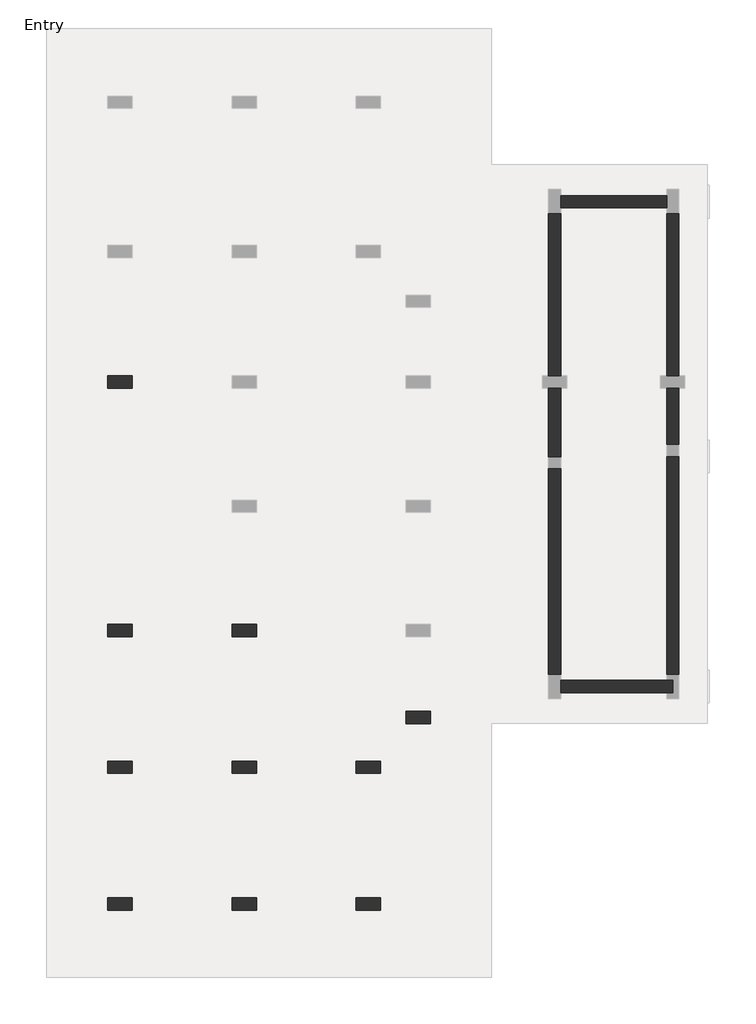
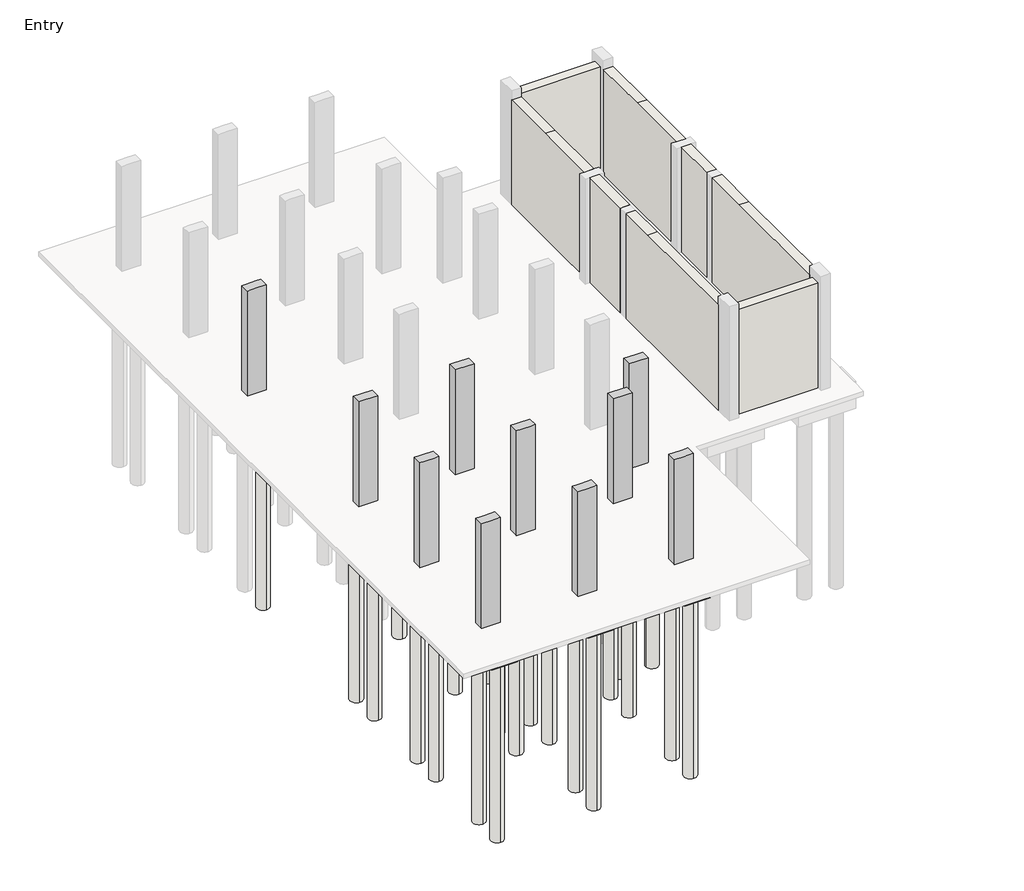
# One storey, part 1 of 3: 34 slabs, 10 columns, 8 walls.
"""IFC4 building model written with IfcOpenShell, lengths in millimetres."""

import ifcopenshell
import ifcopenshell.guid

model = None  # the IFC model being written
_history = None  # IfcOwnerHistory: only IFC2X3 demands one
_inside = {}  # id of a spatial element -> (the spatial element, [elements in it])
_under = {}  # id of a project, library or spatial element -> (it, [spatial elements below it])
_declared = {}  # id of a project -> (the project, [libraries it declares])
_typed = {}  # id of a type object -> (the type object, [elements of that type])
_made_of = {}  # id of a material, layer set ... -> (it, [elements and type objects made of it])


def new_model(schema):
    """Start an empty IFC model of exactly this schema.

    Asked for "IFC4X3", IfcOpenShell would pick the latest addendum, in which some entities
    have other attributes; the version numbers below select the first issue.
    IFC2X3 requires an IfcOwnerHistory on every rooted entity: one is made here for all.
    """
    global model, _history
    if schema == "IFC4X3":
        model = ifcopenshell.file(schema_version=(4, 3, 0, 0))
    else:
        model = ifcopenshell.file(schema=schema)
    _inside.clear()
    _under.clear()
    _declared.clear()
    _typed.clear()
    _made_of.clear()
    _history = None
    if model.schema == "IFC2X3":
        org = make("IfcOrganization", Name="unknown")
        user = make(
            "IfcPersonAndOrganization",
            ThePerson=make("IfcPerson", FamilyName="unknown"),
            TheOrganization=org,
        )
        app = make(
            "IfcApplication",
            ApplicationDeveloper=org,
            Version="unknown",
            ApplicationFullName="unknown",
            ApplicationIdentifier="unknown",
        )
        _history = make(
            "IfcOwnerHistory",
            OwningUser=user,
            OwningApplication=app,
            ChangeAction="ADDED",
            CreationDate=0,
        )
    return model


def make(cls, **values):
    """One entity of the class cls with the attributes given. An attribute that is None is left unset."""
    return model.create_entity(
        cls, **{name: value for name, value in values.items() if value is not None}
    )


def rooted(cls, **values):
    """An entity with a GlobalId (a new one), such as an element, a storey or a relation."""
    return make(cls, GlobalId=ifcopenshell.guid.new(), OwnerHistory=_history, **values)


def si_unit(unit_type, name, prefix=None):
    """IfcSIUnit, for example si_unit("LENGTHUNIT", "METRE", prefix="MILLI")."""
    return make("IfcSIUnit", UnitType=unit_type, Prefix=prefix, Name=name)


def assignment(units):
    """IfcUnitAssignment: the units of a project."""
    return None if units is None else make("IfcUnitAssignment", Units=units)


def point(xyz):
    """IfcCartesianPoint."""
    return None if xyz is None else make("IfcCartesianPoint", Coordinates=xyz)


def direction(xyz):
    """IfcDirection."""
    return None if xyz is None else make("IfcDirection", DirectionRatios=xyz)


def frame(location, z_axis=None, x_axis=None):
    """IfcAxis2Placement3D, a coordinate frame: its origin and axes. An axis left out is left unset."""
    return make(
        "IfcAxis2Placement3D",
        Location=point(location),
        Axis=direction(z_axis),
        RefDirection=direction(x_axis),
    )


def frame_2d(location, x_axis=None):
    """IfcAxis2Placement2D, a coordinate frame in the plane: its origin and x axis."""
    return make(
        "IfcAxis2Placement2D", Location=point(location), RefDirection=direction(x_axis)
    )


def origin():
    """The frame at (0, 0, 0) with its axes left unset."""
    return frame((0.0, 0.0, 0.0))


def origin_with_axes():
    """The frame at (0, 0, 0) with the z axis (0, 0, 1) and the x axis (1, 0, 0) written out."""
    return frame((0.0, 0.0, 0.0), z_axis=(0.0, 0.0, 1.0), x_axis=(1.0, 0.0, 0.0))


def place(relative_to, where):
    """IfcLocalPlacement: puts the frame where relative to a parent placement (None: the world)."""
    return make(
        "IfcLocalPlacement", PlacementRelTo=relative_to, RelativePlacement=where
    )


def context(
    kind, dimensions, precision=None, world=None, true_north=None, identifier=None
):
    """IfcGeometricRepresentationContext, for example the 3D "Model" context."""
    return make(
        "IfcGeometricRepresentationContext",
        ContextIdentifier=identifier,
        ContextType=kind,
        CoordinateSpaceDimension=dimensions,
        Precision=precision,
        WorldCoordinateSystem=world,
        TrueNorth=true_north,
    )


def project(units=None, contexts=None):
    """IfcProject with its units and contexts."""
    return rooted(
        "IfcProject",
        Name="project",
        RepresentationContexts=contexts,
        UnitsInContext=assignment(units),
    )


def spatial(cls, under=None, at=None, **own):
    """A site, building, storey or space (cls), placed at a placement, below another one or the project."""
    s = rooted(cls, ObjectPlacement=at, **own)
    if under is not None:
        _under.setdefault(under.id(), (under, []))[1].append(s)
    return s


def polyline(points):
    """IfcPolyline through the points."""
    return make("IfcPolyline", Points=[point(p) for p in points])


def circle_curve(where, radius):
    """IfcCircle in the frame where."""
    return make("IfcCircle", Position=where, Radius=radius)


def trimmed(basis, trim1, trim2, sense, master):
    """IfcTrimmedCurve: the piece of a basis curve between two trims."""
    return make(
        "IfcTrimmedCurve",
        BasisCurve=basis,
        Trim1=trim1,
        Trim2=trim2,
        SenseAgreement=sense,
        MasterRepresentation=master,
    )


def segment(curve, same_sense, transition):
    """IfcCompositeCurveSegment."""
    return make(
        "IfcCompositeCurveSegment",
        Transition=transition,
        SameSense=same_sense,
        ParentCurve=curve,
    )


def composite_curve(segments, self_intersect=None):
    """IfcCompositeCurve: segments joined end to end."""
    return make("IfcCompositeCurve", Segments=segments, SelfIntersect=self_intersect)


def outline(outer, holes=None, kind="AREA"):
    """IfcArbitraryClosedProfileDef: a profile drawn as a closed curve; with holes, ...WithVoids."""
    if holes is None:
        return make("IfcArbitraryClosedProfileDef", ProfileType=kind, OuterCurve=outer)
    return make(
        "IfcArbitraryProfileDefWithVoids",
        ProfileType=kind,
        OuterCurve=outer,
        InnerCurves=holes,
    )


def extrude(swept, where, along, depth):
    """IfcExtrudedAreaSolid: the profile swept, set in the frame where, extruded along a direction by depth."""
    return make(
        "IfcExtrudedAreaSolid",
        SweptArea=swept,
        Position=where,
        ExtrudedDirection=direction(along),
        Depth=depth,
    )


def faces_of(points, faces, orient=None, outer=None):
    """IfcFace entities. A face is a list of loops; a loop is a list of indices into points, from 0.

    orient and outer hold one flag for each loop. By default every Orientation is true, the
    first loop of a face is its IfcFaceOuterBound and the others are IfcFaceBound.
    """
    made = []
    for i, loops in enumerate(faces):
        bounds = []
        for j, loop in enumerate(loops):
            is_outer = j == 0 if outer is None else outer[i][j]
            bounds.append(
                make(
                    "IfcFaceOuterBound" if is_outer else "IfcFaceBound",
                    Bound=make("IfcPolyLoop", Polygon=[points[k] for k in loop]),
                    Orientation=True if orient is None else orient[i][j],
                )
            )
        made.append(make("IfcFace", Bounds=bounds))
    return made


def faceted_brep(points, faces, orient=None, outer=None, voids=None):
    """IfcFacetedBrep: a solid bounded by flat faces; with voids (closed shells), ...WithVoids."""
    shared = [point(p) for p in points]
    hull = make("IfcClosedShell", CfsFaces=faces_of(shared, faces, orient, outer))
    if voids is None:
        return make("IfcFacetedBrep", Outer=hull)
    return make(
        "IfcFacetedBrepWithVoids",
        Outer=hull,
        Voids=[
            make(cls, CfsFaces=faces_of(shared, fs, o, b)) for cls, fs, o, b in voids
        ],
    )


def shape(context_of_items, identifier, shape_type, items):
    """IfcShapeRepresentation: the items that make up one representation, for example the "Body"."""
    return make(
        "IfcShapeRepresentation",
        ContextOfItems=context_of_items,
        RepresentationIdentifier=identifier,
        RepresentationType=shape_type,
        Items=items,
    )


def made_of(thing, what):
    """Note that an element or type object is made of a material, layer set ...; save() writes the relation."""
    if what is not None:
        _made_of.setdefault(what.id(), (what, []))[1].append(thing)
    return thing


def element(
    cls,
    number,
    at=None,
    inside=None,
    cuts=None,
    type_object=None,
    material=None,
    context=None,
    identifier="Body",
    shape_type=None,
    held_by="IfcProductDefinitionShape",
    body=None,
    shapes=None,
    **own,
):
    """One element of the class cls, such as IfcWall. Its Tag is "e" and its number.

    at: its placement. inside: the storey or other place that contains it. cuts: it is an
    opening in that element (IfcRelVoidsElement). A single representation is given by context,
    identifier, shape_type and body (its items); several are given by shapes. held_by: the class
    of the entity that holds the representations. save() writes the other relations.
    """
    e = rooted(cls, Tag="e%d" % number, ObjectPlacement=at, **own)
    if body is not None:
        shapes = [shape(context, identifier, shape_type, body)]
    if shapes is not None:
        e.Representation = make(held_by, Representations=shapes)
    if inside is not None:
        _inside.setdefault(inside.id(), (inside, []))[1].append(e)
    if cuts is not None:
        rooted(
            "IfcRelVoidsElement", RelatingBuildingElement=cuts, RelatedOpeningElement=e
        )
    if type_object is not None:
        _typed.setdefault(type_object.id(), (type_object, []))[1].append(e)
    return made_of(e, material)


def aggregate(whole, parts):
    """IfcRelAggregates: a whole, such as a stair, and the parts it consists of."""
    return rooted("IfcRelAggregates", RelatingObject=whole, RelatedObjects=parts)


def save(model, path):
    """Write the relations noted so far, then the file.

    IfcRelAggregates (storeys below a building ...), IfcRelContainedInSpatialStructure (elements
    in a storey), IfcRelDefinesByType, IfcRelAssociatesMaterial and IfcRelDeclares: one each for
    every whole, place, type object, material and project.
    """
    for whole, parts in _under.values():
        aggregate(whole, parts)
    for where, things in _inside.values():
        rooted(
            "IfcRelContainedInSpatialStructure",
            RelatedElements=things,
            RelatingStructure=where,
        )
    for kind, things in _typed.values():
        rooted("IfcRelDefinesByType", RelatedObjects=things, RelatingType=kind)
    for what, things in _made_of.values():
        rooted("IfcRelAssociatesMaterial", RelatedObjects=things, RelatingMaterial=what)
    for by, libraries in _declared.values():
        rooted("IfcRelDeclares", RelatingContext=by, RelatedDefinitions=libraries)
    model.write(path)


model = new_model("IFC4")

# Units and contexts
model_context = context("Model", 3, world=origin())
ifc_project = project(units=[si_unit("LENGTHUNIT", "METRE", prefix="MILLI")], contexts=[model_context])

# Site, building, storey
site = spatial("IfcSite", under=ifc_project)
building = spatial("IfcBuilding", under=site)
storey = spatial("IfcBuildingStorey", under=building, Name="Entry", Elevation=0.0)

# Columns
placement = place(None, origin())
element("IfcColumn", 1, ObjectType="M_Concrete-Rectangular-Column : 300 x 600mm", at=placement, inside=storey, context=model_context, shape_type="Brep", body=[
    faceted_brep([(-13131.3472303, 8019.016665, 0.0), (-12531.3472303, 8019.016665, 0.0), (-12531.3472303, 7719.016665, 0.0), (-13131.3472303, 7719.016665, 0.0), (-13131.3472303, 8019.016665, 3505.2), (-12981.3472303, 8019.016665, 3505.2), (-12681.3472303, 8019.016665, 3505.2), (-12531.3472303, 8019.016665, 3505.2), (-12531.3472303, 8019.016665, 2910.0), (-12531.3472303, 7719.016665, 3505.2), (-12531.3472303, 7719.016665, 2910.0), (-12831.3472303, 7719.016665, 3505.2), (-13131.3472303, 7719.016665, 3505.2)], [[[0, 1, 2, 3]], [[4, 5, 6, 7, 8, 1, 0]], [[7, 9, 10, 2, 1, 8]], [[9, 11, 12, 3, 2, 10]], [[12, 4, 0, 3]], [[4, 12, 11, 9, 7, 6, 5]]]),
])
element("IfcColumn", 2, ObjectType="M_Concrete-Rectangular-Column : 300 x 600mm", at=placement, inside=storey, context=model_context, shape_type="Brep", body=[
    faceted_brep([(-13131.3472303, 1923.016665, 0.0), (-12531.3472303, 1923.016665, 0.0), (-12531.3472303, 1623.016665, 0.0), (-13131.3472303, 1623.016665, 0.0), (-13131.3472303, 1923.016665, 3505.2), (-12831.3472303, 1923.016665, 3505.2), (-12531.3472303, 1923.016665, 3505.2), (-12531.3472303, 1923.016665, 2910.0), (-12531.3472303, 1623.016665, 3505.2), (-12531.3472303, 1623.016665, 2910.0), (-12681.3472303, 1623.016665, 3505.2), (-12981.3472303, 1623.016665, 3505.2), (-13131.3472303, 1623.016665, 3505.2)], [[[0, 1, 2, 3]], [[4, 5, 6, 7, 1, 0]], [[6, 8, 9, 2, 1, 7]], [[8, 10, 11, 12, 3, 2, 9]], [[12, 4, 0, 3]], [[4, 12, 11, 10, 8, 6, 5]]]),
])
element("IfcColumn", 3, ObjectType="M_Concrete-Rectangular-Column : 300 x 600mm", at=placement, inside=storey, context=model_context, shape_type="Brep", body=[
    faceted_brep([(-10083.3472303, 1923.016665, 0.0), (-9483.3472303, 1923.016665, 0.0), (-9483.3472303, 1623.016665, 0.0), (-10083.3472303, 1623.016665, 0.0), (-10083.3472303, 1923.016665, 3505.2), (-9933.3472303, 1923.016665, 3505.2), (-9783.3472303, 1923.016665, 3505.2), (-9483.3472303, 1923.016665, 3505.2), (-9483.3472303, 1923.016665, 2910.0), (-10083.3472303, 1923.016665, 2910.0), (-9483.3472303, 1623.016665, 3505.2), (-9483.3472303, 1623.016665, 2910.0), (-9783.3472303, 1623.016665, 3505.2), (-9933.3472303, 1623.016665, 3505.2), (-10083.3472303, 1623.016665, 3505.2), (-10083.3472303, 1623.016665, 2910.0)], [[[0, 1, 2, 3]], [[4, 5, 6, 7, 8, 1, 0, 9]], [[7, 10, 11, 2, 1, 8]], [[10, 12, 13, 14, 15, 3, 2, 11]], [[14, 4, 9, 0, 3, 15]], [[4, 14, 13, 12, 10, 7, 6, 5]]]),
])
element("IfcColumn", 4, ObjectType="M_Concrete-Rectangular-Column : 300 x 600mm", at=placement, inside=storey, context=model_context, shape_type="Brep", body=[
    faceted_brep([(-5816.3472303, -210.983335, 0.0), (-5216.3472303, -210.983335, 0.0), (-5216.3472303, -510.983335, 0.0), (-5816.3472303, -510.983335, 0.0), (-5816.3472303, -210.983335, 3505.2), (-5666.3472303, -210.983335, 3505.2), (-5366.3472303, -210.983335, 3505.2), (-5216.3472303, -210.983335, 3505.2), (-5816.3472303, -210.983335, 2910.0), (-5216.3472303, -510.983335, 3505.2), (-5516.3472303, -510.983335, 3505.2), (-5816.3472303, -510.983335, 3505.2), (-5816.3472303, -510.983335, 2910.0)], [[[0, 1, 2, 3]], [[4, 5, 6, 7, 1, 0, 8]], [[7, 9, 2, 1]], [[9, 10, 11, 12, 3, 2]], [[11, 4, 8, 0, 3, 12]], [[4, 11, 10, 9, 7, 6, 5]]]),
])
element("IfcColumn", 5, ObjectType="M_Concrete-Rectangular-Column : 300 x 600mm", at=placement, inside=storey, context=model_context, shape_type="Brep", body=[
    faceted_brep([(-13131.3472303, -1429.983335, 0.0), (-12531.3472303, -1429.983335, 0.0), (-12531.3472303, -1729.983335, 0.0), (-13131.3472303, -1729.983335, 0.0), (-13131.3472303, -1429.983335, 3505.2), (-12981.3472303, -1429.983335, 3505.2), (-12831.3472303, -1429.983335, 3505.2), (-12531.3472303, -1429.983335, 3505.2), (-12531.3472303, -1429.983335, 2910.0), (-12531.3472303, -1729.983335, 3505.2), (-12531.3472303, -1729.983335, 2910.0), (-12681.3472303, -1729.983335, 3505.2), (-12981.3472303, -1729.983335, 3505.2), (-13131.3472303, -1729.983335, 3505.2)], [[[0, 1, 2, 3]], [[4, 5, 6, 7, 8, 1, 0]], [[7, 9, 10, 2, 1, 8]], [[9, 11, 12, 13, 3, 2, 10]], [[13, 4, 0, 3]], [[4, 13, 12, 11, 9, 7, 6, 5]]]),
])
element("IfcColumn", 6, ObjectType="M_Concrete-Rectangular-Column : 300 x 600mm", at=placement, inside=storey, context=model_context, shape_type="Brep", body=[
    faceted_brep([(-10083.3472303, -1429.983335, 0.0), (-9483.3472303, -1429.983335, 0.0), (-9483.3472303, -1729.983335, 0.0), (-10083.3472303, -1729.983335, 0.0), (-10083.3472303, -1429.983335, 3505.2), (-9933.3472303, -1429.983335, 3505.2), (-9783.3472303, -1429.983335, 3505.2), (-9483.3472303, -1429.983335, 3505.2), (-9483.3472303, -1429.983335, 2910.0), (-10083.3472303, -1429.983335, 2910.0), (-9483.3472303, -1729.983335, 3505.2), (-9483.3472303, -1729.983335, 2910.0), (-9633.3472303, -1729.983335, 3505.2), (-9933.3472303, -1729.983335, 3505.2), (-10083.3472303, -1729.983335, 3505.2), (-10083.3472303, -1729.983335, 2910.0)], [[[0, 1, 2, 3]], [[4, 5, 6, 7, 8, 1, 0, 9]], [[7, 10, 11, 2, 1, 8]], [[10, 12, 13, 14, 15, 3, 2, 11]], [[14, 4, 9, 0, 3, 15]], [[4, 14, 13, 12, 10, 7, 6, 5]]]),
])
element("IfcColumn", 7, ObjectType="M_Concrete-Rectangular-Column : 300 x 600mm", at=placement, inside=storey, context=model_context, shape_type="Brep", body=[
    faceted_brep([(-7035.3472303, -1429.983335, 0.0), (-6435.3472303, -1429.983335, 0.0), (-6435.3472303, -1729.983335, 0.0), (-7035.3472303, -1729.983335, 0.0), (-7035.3472303, -1429.983335, 3505.2), (-6885.3472303, -1429.983335, 3505.2), (-6585.3472303, -1429.983335, 3505.2), (-6435.3472303, -1429.983335, 3505.2), (-7035.3472303, -1429.983335, 2910.0), (-6435.3472303, -1729.983335, 3505.2), (-6585.3472303, -1729.983335, 3505.2), (-6735.3472303, -1729.983335, 3505.2), (-7035.3472303, -1729.983335, 3505.2), (-7035.3472303, -1729.983335, 2910.0)], [[[0, 1, 2, 3]], [[4, 5, 6, 7, 1, 0, 8]], [[7, 9, 2, 1]], [[9, 10, 11, 12, 13, 3, 2]], [[12, 4, 8, 0, 3, 13]], [[4, 12, 11, 10, 9, 7, 6, 5]]]),
])
element("IfcColumn", 8, ObjectType="M_Concrete-Rectangular-Column : 300 x 600mm", at=placement, inside=storey, context=model_context, shape_type="Brep", body=[
    faceted_brep([(-13131.3472303, -4782.983335, 0.0), (-12531.3472303, -4782.983335, 0.0), (-12531.3472303, -5082.983335, 0.0), (-13131.3472303, -5082.983335, 0.0), (-13131.3472303, -4782.983335, 3505.2), (-12981.3472303, -4782.983335, 3505.2), (-12831.3472303, -4782.983335, 3505.2), (-12531.3472303, -4782.983335, 3505.2), (-12531.3472303, -4782.983335, 2910.0), (-12531.3472303, -5082.983335, 3505.2), (-12531.3472303, -5082.983335, 2910.0), (-12831.3472303, -5082.983335, 3505.2), (-13131.3472303, -5082.983335, 3505.2)], [[[0, 1, 2, 3]], [[4, 5, 6, 7, 8, 1, 0]], [[7, 9, 10, 2, 1, 8]], [[9, 11, 12, 3, 2, 10]], [[12, 4, 0, 3]], [[4, 12, 11, 9, 7, 6, 5]]]),
])
element("IfcColumn", 9, ObjectType="M_Concrete-Rectangular-Column : 300 x 600mm", at=placement, inside=storey, context=model_context, shape_type="Brep", body=[
    faceted_brep([(-10083.3472303, -4782.983335, 0.0), (-9483.3472303, -4782.983335, 0.0), (-9483.3472303, -5082.983335, 0.0), (-10083.3472303, -5082.983335, 0.0), (-10083.3472303, -4782.983335, 3505.2), (-9933.3472303, -4782.983335, 3505.2), (-9783.3472303, -4782.983335, 3505.2), (-9483.3472303, -4782.983335, 3505.2), (-9483.3472303, -4782.983335, 2910.0), (-10083.3472303, -4782.983335, 2910.0), (-9483.3472303, -5082.983335, 3505.2), (-9483.3472303, -5082.983335, 2910.0), (-9783.3472303, -5082.983335, 3505.2), (-10083.3472303, -5082.983335, 3505.2), (-10083.3472303, -5082.983335, 2910.0)], [[[0, 1, 2, 3]], [[4, 5, 6, 7, 8, 1, 0, 9]], [[7, 10, 11, 2, 1, 8]], [[10, 12, 13, 14, 3, 2, 11]], [[13, 4, 9, 0, 3, 14]], [[4, 13, 12, 10, 7, 6, 5]]]),
])
element("IfcColumn", 10, ObjectType="M_Concrete-Rectangular-Column : 300 x 600mm", at=placement, inside=storey, context=model_context, shape_type="Brep", body=[
    faceted_brep([(-7035.3472303, -4782.983335, 0.0), (-6435.3472303, -4782.983335, 0.0), (-6435.3472303, -5082.983335, 0.0), (-7035.3472303, -5082.983335, 0.0), (-7035.3472303, -4782.983335, 3505.2), (-6885.3472303, -4782.983335, 3505.2), (-6585.3472303, -4782.983335, 3505.2), (-6435.3472303, -4782.983335, 3505.2), (-7035.3472303, -4782.983335, 2910.0), (-6435.3472303, -5082.983335, 3505.2), (-6735.3472303, -5082.983335, 3505.2), (-7035.3472303, -5082.983335, 3505.2), (-7035.3472303, -5082.983335, 2910.0)], [[[0, 1, 2, 3]], [[4, 5, 6, 7, 1, 0, 8]], [[7, 9, 2, 1]], [[9, 10, 11, 12, 3, 2]], [[11, 4, 8, 0, 3, 12]], [[4, 11, 10, 9, 7, 6, 5]]]),
])

# Slabs
element("IfcSlab", 11, ObjectType="M_Pile Cap-2 Pile : 800 x 1500 x 900", at=placement, inside=storey, context=model_context, shape_type="Brep", body=[
    faceted_brep([(-7135.3472303, -679.983335, -900.0), (-6416.3472303, -679.983335, -900.0), (-6335.3472303, -679.983335, -900.0), (-6335.3472303, -760.983335, -900.0), (-6335.3472303, -2479.983335, -900.0), (-7135.3472303, -2479.983335, -900.0), (-7135.3472303, -2479.983335, -150.0), (-7135.3472303, -679.983335, -150.0), (-6335.3472303, -2479.983335, -150.0), (-6335.3472303, -679.983335, -150.0), (-6335.3472303, -760.983335, -150.0), (-6416.3472303, -679.983335, -150.0)], [[[0, 1, 2, 3, 4, 5]], [[0, 5, 6, 7]], [[5, 4, 8, 6]], [[4, 3, 2, 9, 10, 8]], [[2, 1, 0, 7, 11, 9]], [[7, 6, 8, 10, 9, 11]]]),
])
element("IfcSlab", 12, ObjectType="M_Pile Cap-2 Pile : 800 x 1500 x 900", at=placement, inside=storey, context=model_context, shape_type="SweptSolid", body=[
    extrude(outline(polyline([(-7135.3472303, -4032.983335), (-6335.3472303, -4032.983335), (-6335.3472303, -5832.983335), (-7135.3472303, -5832.983335), (-7135.3472303, -4032.983335)])), frame((0.0, 0.0, -900.0), z_axis=(0.0, 0.0, 1.0), x_axis=(1.0, 0.0, 0.0)), (0.0, 0.0, 1.0), 750.0),
])
element("IfcSlab", 13, ObjectType="M_Pile Cap-2 Pile : 800 x 1500 x 900", at=placement, inside=storey, context=model_context, shape_type="SweptSolid", body=[
    extrude(outline(polyline([(-10183.3472303, -4032.983335), (-9383.3472303, -4032.983335), (-9383.3472303, -5832.983335), (-10183.3472303, -5832.983335), (-10183.3472303, -4032.983335)])), frame((0.0, 0.0, -900.0), z_axis=(0.0, 0.0, 1.0), x_axis=(1.0, 0.0, 0.0)), (0.0, 0.0, 1.0), 750.0),
])
element("IfcSlab", 14, ObjectType="M_Pile Cap-2 Pile : 800 x 1500 x 900", at=placement, inside=storey, context=model_context, shape_type="SweptSolid", body=[
    extrude(outline(polyline([(-13231.3472303, -4032.983335), (-12431.3472303, -4032.983335), (-12431.3472303, -5832.983335), (-13231.3472303, -5832.983335), (-13231.3472303, -4032.983335)])), frame((0.0, 0.0, -900.0), z_axis=(0.0, 0.0, 1.0), x_axis=(1.0, 0.0, 0.0)), (0.0, 0.0, 1.0), 750.0),
])
element("IfcSlab", 15, ObjectType="M_Pile Cap-2 Pile : 800 x 1500 x 900", at=placement, inside=storey, context=model_context, shape_type="SweptSolid", body=[
    extrude(outline(polyline([(-13231.3472303, -679.983335), (-12431.3472303, -679.983335), (-12431.3472303, -2479.983335), (-13231.3472303, -2479.983335), (-13231.3472303, -679.983335)])), frame((0.0, 0.0, -900.0), z_axis=(0.0, 0.0, 1.0), x_axis=(1.0, 0.0, 0.0)), (0.0, 0.0, 1.0), 750.0),
])
element("IfcSlab", 16, ObjectType="M_Pile Cap-2 Pile : 800 x 1500 x 900", at=placement, inside=storey, context=model_context, shape_type="SweptSolid", body=[
    extrude(outline(polyline([(-13231.3472303, 2673.016665), (-12431.3472303, 2673.016665), (-12431.3472303, 873.016665), (-13231.3472303, 873.016665), (-13231.3472303, 2673.016665)])), frame((0.0, 0.0, -900.0), z_axis=(0.0, 0.0, 1.0), x_axis=(1.0, 0.0, 0.0)), (0.0, 0.0, 1.0), 750.0),
])
element("IfcSlab", 17, ObjectType="M_Pile Cap-2 Pile : 800 x 1500 x 900", at=placement, inside=storey, context=model_context, shape_type="SweptSolid", body=[
    extrude(outline(polyline([(-13231.3472303, 8769.016665), (-12431.3472303, 8769.016665), (-12431.3472303, 6969.016665), (-13231.3472303, 6969.016665), (-13231.3472303, 8769.016665)])), frame((0.0, 0.0, -900.0), z_axis=(0.0, 0.0, 1.0), x_axis=(1.0, 0.0, 0.0)), (0.0, 0.0, 1.0), 750.0),
])
element("IfcSlab", 18, ObjectType="M_Pile Cap-2 Pile : 800 x 1500 x 900", at=placement, inside=storey, context=model_context, shape_type="SweptSolid", body=[
    extrude(outline(polyline([(-4616.3472303, 39.016665), (-4616.3472303, -760.983335), (-6335.3472303, -760.983335), (-6335.3472303, -679.983335), (-6416.3472303, -679.983335), (-6416.3472303, 39.016665), (-4616.3472303, 39.016665)])), frame((0.0, 0.0, -900.0), z_axis=(0.0, 0.0, 1.0), x_axis=(1.0, 0.0, 0.0)), (0.0, 0.0, 1.0), 750.0),
])
element("IfcSlab", 19, ObjectType="M_Pile Cap-4 Pile : 1800 x 1800 x 900", at=placement, inside=storey, context=model_context, shape_type="SweptSolid", body=[
    extrude(outline(polyline([(-10683.3472303, 2673.016665), (-8883.3472303, 2673.016665), (-8883.3472303, 873.016665), (-10683.3472303, 873.016665), (-10683.3472303, 2673.016665)])), frame((0.0, 0.0, -900.0), z_axis=(0.0, 0.0, 1.0), x_axis=(1.0, 0.0, 0.0)), (0.0, 0.0, 1.0), 750.0),
])
element("IfcSlab", 20, ObjectType="M_Pile Cap-4 Pile : 1800 x 1800 x 900", at=placement, inside=storey, context=model_context, shape_type="SweptSolid", body=[
    extrude(outline(polyline([(-10683.3472303, -679.983335), (-8883.3472303, -679.983335), (-8883.3472303, -2479.983335), (-10683.3472303, -2479.983335), (-10683.3472303, -679.983335)])), frame((0.0, 0.0, -900.0), z_axis=(0.0, 0.0, 1.0), x_axis=(1.0, 0.0, 0.0)), (0.0, 0.0, 1.0), 750.0),
])
element("IfcSlab", 21, ObjectType="M_Pile-Steel Pipe : 400mm Diameter", at=placement, inside=storey, context=model_context, shape_type="SweptSolid", body=[
    extrude(outline(composite_curve([segment(trimmed(circle_curve(frame_2d((-10303.3472303, 4301.016665)), 200.0), [point((-10303.3472303, 4101.016665))], [point((-10303.3472303, 4501.016665))], False, "CARTESIAN"), True, "CONTINUOUS"), segment(trimmed(circle_curve(frame_2d((-10303.3472303, 4301.016665)), 200.0), [point((-10303.3472303, 4501.016665))], [point((-10303.3472303, 4101.016665))], False, "CARTESIAN"), True, "CONTINUOUS")], self_intersect=False)), frame((0.0, 0.0, -6900.0), z_axis=(0.0, 0.0, 1.0), x_axis=(1.0, 0.0, 0.0)), (0.0, 0.0, 1.0), 6000.0),
])
element("IfcSlab", 22, ObjectType="M_Pile-Steel Pipe : 400mm Diameter", at=placement, inside=storey, context=model_context, shape_type="SweptSolid", body=[
    extrude(outline(composite_curve([segment(trimmed(circle_curve(frame_2d((-9263.3472303, 1253.016665)), 200.0), [point((-9263.3472303, 1053.016665))], [point((-9263.3472303, 1453.016665))], False, "CARTESIAN"), True, "CONTINUOUS"), segment(trimmed(circle_curve(frame_2d((-9263.3472303, 1253.016665)), 200.0), [point((-9263.3472303, 1453.016665))], [point((-9263.3472303, 1053.016665))], False, "CARTESIAN"), True, "CONTINUOUS")], self_intersect=False)), frame((0.0, 0.0, -6900.0), z_axis=(0.0, 0.0, 1.0), x_axis=(1.0, 0.0, 0.0)), (0.0, 0.0, 1.0), 6000.0),
])
element("IfcSlab", 23, ObjectType="M_Pile-Steel Pipe : 400mm Diameter", at=placement, inside=storey, context=model_context, shape_type="SweptSolid", body=[
    extrude(outline(composite_curve([segment(trimmed(circle_curve(frame_2d((-9263.3472303, 2293.016665)), 200.0), [point((-9263.3472303, 2093.016665))], [point((-9263.3472303, 2493.016665))], False, "CARTESIAN"), True, "CONTINUOUS"), segment(trimmed(circle_curve(frame_2d((-9263.3472303, 2293.016665)), 200.0), [point((-9263.3472303, 2493.016665))], [point((-9263.3472303, 2093.016665))], False, "CARTESIAN"), True, "CONTINUOUS")], self_intersect=False)), frame((0.0, 0.0, -6900.0), z_axis=(0.0, 0.0, 1.0), x_axis=(1.0, 0.0, 0.0)), (0.0, 0.0, 1.0), 6000.0),
])
element("IfcSlab", 24, ObjectType="M_Pile-Steel Pipe : 400mm Diameter", at=placement, inside=storey, context=model_context, shape_type="SweptSolid", body=[
    extrude(outline(composite_curve([segment(trimmed(circle_curve(frame_2d((-10303.3472303, 2293.016665)), 200.0), [point((-10303.3472303, 2093.016665))], [point((-10303.3472303, 2493.016665))], False, "CARTESIAN"), True, "CONTINUOUS"), segment(trimmed(circle_curve(frame_2d((-10303.3472303, 2293.016665)), 200.0), [point((-10303.3472303, 2493.016665))], [point((-10303.3472303, 2093.016665))], False, "CARTESIAN"), True, "CONTINUOUS")], self_intersect=False)), frame((0.0, 0.0, -6900.0), z_axis=(0.0, 0.0, 1.0), x_axis=(1.0, 0.0, 0.0)), (0.0, 0.0, 1.0), 6000.0),
])
element("IfcSlab", 25, ObjectType="M_Pile-Steel Pipe : 400mm Diameter", at=placement, inside=storey, context=model_context, shape_type="SweptSolid", body=[
    extrude(outline(composite_curve([segment(trimmed(circle_curve(frame_2d((-10303.3472303, 1253.016665)), 200.0), [point((-10303.3472303, 1053.016665))], [point((-10303.3472303, 1453.016665))], False, "CARTESIAN"), True, "CONTINUOUS"), segment(trimmed(circle_curve(frame_2d((-10303.3472303, 1253.016665)), 200.0), [point((-10303.3472303, 1453.016665))], [point((-10303.3472303, 1053.016665))], False, "CARTESIAN"), True, "CONTINUOUS")], self_intersect=False)), frame((0.0, 0.0, -6900.0), z_axis=(0.0, 0.0, 1.0), x_axis=(1.0, 0.0, 0.0)), (0.0, 0.0, 1.0), 6000.0),
])
element("IfcSlab", 26, ObjectType="M_Pile-Steel Pipe : 400mm Diameter", at=placement, inside=storey, context=model_context, shape_type="SweptSolid", body=[
    extrude(outline(composite_curve([segment(trimmed(circle_curve(frame_2d((-9263.3472303, -2099.983335)), 200.0), [point((-9263.3472303, -2299.983335))], [point((-9263.3472303, -1899.983335))], False, "CARTESIAN"), True, "CONTINUOUS"), segment(trimmed(circle_curve(frame_2d((-9263.3472303, -2099.983335)), 200.0), [point((-9263.3472303, -1899.983335))], [point((-9263.3472303, -2299.983335))], False, "CARTESIAN"), True, "CONTINUOUS")], self_intersect=False)), frame((0.0, 0.0, -6900.0), z_axis=(0.0, 0.0, 1.0), x_axis=(1.0, 0.0, 0.0)), (0.0, 0.0, 1.0), 6000.0),
])
element("IfcSlab", 27, ObjectType="M_Pile-Steel Pipe : 400mm Diameter", at=placement, inside=storey, context=model_context, shape_type="SweptSolid", body=[
    extrude(outline(composite_curve([segment(trimmed(circle_curve(frame_2d((-9263.3472303, -1059.983335)), 200.0), [point((-9263.3472303, -1259.983335))], [point((-9263.3472303, -859.983335))], False, "CARTESIAN"), True, "CONTINUOUS"), segment(trimmed(circle_curve(frame_2d((-9263.3472303, -1059.983335)), 200.0), [point((-9263.3472303, -859.983335))], [point((-9263.3472303, -1259.983335))], False, "CARTESIAN"), True, "CONTINUOUS")], self_intersect=False)), frame((0.0, 0.0, -6900.0), z_axis=(0.0, 0.0, 1.0), x_axis=(1.0, 0.0, 0.0)), (0.0, 0.0, 1.0), 6000.0),
])
element("IfcSlab", 28, ObjectType="M_Pile-Steel Pipe : 400mm Diameter", at=placement, inside=storey, context=model_context, shape_type="SweptSolid", body=[
    extrude(outline(composite_curve([segment(trimmed(circle_curve(frame_2d((-10303.3472303, -1059.983335)), 200.0), [point((-10303.3472303, -1259.983335))], [point((-10303.3472303, -859.983335))], False, "CARTESIAN"), True, "CONTINUOUS"), segment(trimmed(circle_curve(frame_2d((-10303.3472303, -1059.983335)), 200.0), [point((-10303.3472303, -859.983335))], [point((-10303.3472303, -1259.983335))], False, "CARTESIAN"), True, "CONTINUOUS")], self_intersect=False)), frame((0.0, 0.0, -6900.0), z_axis=(0.0, 0.0, 1.0), x_axis=(1.0, 0.0, 0.0)), (0.0, 0.0, 1.0), 6000.0),
])
element("IfcSlab", 29, ObjectType="M_Pile-Steel Pipe : 400mm Diameter", at=placement, inside=storey, context=model_context, shape_type="SweptSolid", body=[
    extrude(outline(composite_curve([segment(trimmed(circle_curve(frame_2d((-10303.3472303, -2099.983335)), 200.0), [point((-10303.3472303, -2299.983335))], [point((-10303.3472303, -1899.983335))], False, "CARTESIAN"), True, "CONTINUOUS"), segment(trimmed(circle_curve(frame_2d((-10303.3472303, -2099.983335)), 200.0), [point((-10303.3472303, -1899.983335))], [point((-10303.3472303, -2299.983335))], False, "CARTESIAN"), True, "CONTINUOUS")], self_intersect=False)), frame((0.0, 0.0, -6900.0), z_axis=(0.0, 0.0, 1.0), x_axis=(1.0, 0.0, 0.0)), (0.0, 0.0, 1.0), 6000.0),
])
element("IfcSlab", 30, ObjectType="M_Pile-Steel Pipe : 400mm Diameter", at=placement, inside=storey, context=model_context, shape_type="SweptSolid", body=[
    extrude(outline(composite_curve([segment(trimmed(circle_curve(frame_2d((-6735.3472303, -2079.983335)), 200.0), [point((-6735.3472303, -2279.983335))], [point((-6735.3472303, -1879.983335))], False, "CARTESIAN"), True, "CONTINUOUS"), segment(trimmed(circle_curve(frame_2d((-6735.3472303, -2079.983335)), 200.0), [point((-6735.3472303, -1879.983335))], [point((-6735.3472303, -2279.983335))], False, "CARTESIAN"), True, "CONTINUOUS")], self_intersect=False)), frame((0.0, 0.0, -6900.0), z_axis=(0.0, 0.0, 1.0), x_axis=(1.0, 0.0, 0.0)), (0.0, 0.0, 1.0), 6000.0),
])
element("IfcSlab", 31, ObjectType="M_Pile-Steel Pipe : 400mm Diameter", at=placement, inside=storey, context=model_context, shape_type="SweptSolid", body=[
    extrude(outline(composite_curve([segment(trimmed(circle_curve(frame_2d((-6735.3472303, -1079.983335)), 200.0), [point((-6735.3472303, -1279.983335))], [point((-6735.3472303, -879.983335))], False, "CARTESIAN"), True, "CONTINUOUS"), segment(trimmed(circle_curve(frame_2d((-6735.3472303, -1079.983335)), 200.0), [point((-6735.3472303, -879.983335))], [point((-6735.3472303, -1279.983335))], False, "CARTESIAN"), True, "CONTINUOUS")], self_intersect=False)), frame((0.0, 0.0, -6900.0), z_axis=(0.0, 0.0, 1.0), x_axis=(1.0, 0.0, 0.0)), (0.0, 0.0, 1.0), 6000.0),
])
element("IfcSlab", 32, ObjectType="M_Pile-Steel Pipe : 400mm Diameter", at=placement, inside=storey, context=model_context, shape_type="SweptSolid", body=[
    extrude(outline(composite_curve([segment(trimmed(circle_curve(frame_2d((-6735.3472303, -5432.983335)), 200.0), [point((-6735.3472303, -5632.983335))], [point((-6735.3472303, -5232.983335))], False, "CARTESIAN"), True, "CONTINUOUS"), segment(trimmed(circle_curve(frame_2d((-6735.3472303, -5432.983335)), 200.0), [point((-6735.3472303, -5232.983335))], [point((-6735.3472303, -5632.983335))], False, "CARTESIAN"), True, "CONTINUOUS")], self_intersect=False)), frame((0.0, 0.0, -6900.0), z_axis=(0.0, 0.0, 1.0), x_axis=(1.0, 0.0, 0.0)), (0.0, 0.0, 1.0), 6000.0),
])
element("IfcSlab", 33, ObjectType="M_Pile-Steel Pipe : 400mm Diameter", at=placement, inside=storey, context=model_context, shape_type="SweptSolid", body=[
    extrude(outline(composite_curve([segment(trimmed(circle_curve(frame_2d((-6735.3472303, -4432.983335)), 200.0), [point((-6735.3472303, -4632.983335))], [point((-6735.3472303, -4232.983335))], False, "CARTESIAN"), True, "CONTINUOUS"), segment(trimmed(circle_curve(frame_2d((-6735.3472303, -4432.983335)), 200.0), [point((-6735.3472303, -4232.983335))], [point((-6735.3472303, -4632.983335))], False, "CARTESIAN"), True, "CONTINUOUS")], self_intersect=False)), frame((0.0, 0.0, -6900.0), z_axis=(0.0, 0.0, 1.0), x_axis=(1.0, 0.0, 0.0)), (0.0, 0.0, 1.0), 6000.0),
])
element("IfcSlab", 34, ObjectType="M_Pile-Steel Pipe : 400mm Diameter", at=placement, inside=storey, context=model_context, shape_type="SweptSolid", body=[
    extrude(outline(composite_curve([segment(trimmed(circle_curve(frame_2d((-9783.3472303, -5432.983335)), 200.0), [point((-9783.3472303, -5632.983335))], [point((-9783.3472303, -5232.983335))], False, "CARTESIAN"), True, "CONTINUOUS"), segment(trimmed(circle_curve(frame_2d((-9783.3472303, -5432.983335)), 200.0), [point((-9783.3472303, -5232.983335))], [point((-9783.3472303, -5632.983335))], False, "CARTESIAN"), True, "CONTINUOUS")], self_intersect=False)), frame((0.0, 0.0, -6900.0), z_axis=(0.0, 0.0, 1.0), x_axis=(1.0, 0.0, 0.0)), (0.0, 0.0, 1.0), 6000.0),
])
element("IfcSlab", 35, ObjectType="M_Pile-Steel Pipe : 400mm Diameter", at=placement, inside=storey, context=model_context, shape_type="SweptSolid", body=[
    extrude(outline(composite_curve([segment(trimmed(circle_curve(frame_2d((-9783.3472303, -4432.983335)), 200.0), [point((-9783.3472303, -4632.983335))], [point((-9783.3472303, -4232.983335))], False, "CARTESIAN"), True, "CONTINUOUS"), segment(trimmed(circle_curve(frame_2d((-9783.3472303, -4432.983335)), 200.0), [point((-9783.3472303, -4232.983335))], [point((-9783.3472303, -4632.983335))], False, "CARTESIAN"), True, "CONTINUOUS")], self_intersect=False)), frame((0.0, 0.0, -6900.0), z_axis=(0.0, 0.0, 1.0), x_axis=(1.0, 0.0, 0.0)), (0.0, 0.0, 1.0), 6000.0),
])
element("IfcSlab", 36, ObjectType="M_Pile-Steel Pipe : 400mm Diameter", at=placement, inside=storey, context=model_context, shape_type="SweptSolid", body=[
    extrude(outline(composite_curve([segment(trimmed(circle_curve(frame_2d((-12831.3472303, -5432.983335)), 200.0), [point((-12831.3472303, -5632.983335))], [point((-12831.3472303, -5232.983335))], False, "CARTESIAN"), True, "CONTINUOUS"), segment(trimmed(circle_curve(frame_2d((-12831.3472303, -5432.983335)), 200.0), [point((-12831.3472303, -5232.983335))], [point((-12831.3472303, -5632.983335))], False, "CARTESIAN"), True, "CONTINUOUS")], self_intersect=False)), frame((0.0, 0.0, -6900.0), z_axis=(0.0, 0.0, 1.0), x_axis=(1.0, 0.0, 0.0)), (0.0, 0.0, 1.0), 6000.0),
])
element("IfcSlab", 37, ObjectType="M_Pile-Steel Pipe : 400mm Diameter", at=placement, inside=storey, context=model_context, shape_type="SweptSolid", body=[
    extrude(outline(composite_curve([segment(trimmed(circle_curve(frame_2d((-12831.3472303, -4432.983335)), 200.0), [point((-12831.3472303, -4632.983335))], [point((-12831.3472303, -4232.983335))], False, "CARTESIAN"), True, "CONTINUOUS"), segment(trimmed(circle_curve(frame_2d((-12831.3472303, -4432.983335)), 200.0), [point((-12831.3472303, -4232.983335))], [point((-12831.3472303, -4632.983335))], False, "CARTESIAN"), True, "CONTINUOUS")], self_intersect=False)), frame((0.0, 0.0, -6900.0), z_axis=(0.0, 0.0, 1.0), x_axis=(1.0, 0.0, 0.0)), (0.0, 0.0, 1.0), 6000.0),
])
element("IfcSlab", 38, ObjectType="M_Pile-Steel Pipe : 400mm Diameter", at=placement, inside=storey, context=model_context, shape_type="SweptSolid", body=[
    extrude(outline(composite_curve([segment(trimmed(circle_curve(frame_2d((-12831.3472303, -2079.983335)), 200.0), [point((-12831.3472303, -2279.983335))], [point((-12831.3472303, -1879.983335))], False, "CARTESIAN"), True, "CONTINUOUS"), segment(trimmed(circle_curve(frame_2d((-12831.3472303, -2079.983335)), 200.0), [point((-12831.3472303, -1879.983335))], [point((-12831.3472303, -2279.983335))], False, "CARTESIAN"), True, "CONTINUOUS")], self_intersect=False)), frame((0.0, 0.0, -6900.0), z_axis=(0.0, 0.0, 1.0), x_axis=(1.0, 0.0, 0.0)), (0.0, 0.0, 1.0), 6000.0),
])
element("IfcSlab", 39, ObjectType="M_Pile-Steel Pipe : 400mm Diameter", at=placement, inside=storey, context=model_context, shape_type="SweptSolid", body=[
    extrude(outline(composite_curve([segment(trimmed(circle_curve(frame_2d((-12831.3472303, -1079.983335)), 200.0), [point((-12831.3472303, -1279.983335))], [point((-12831.3472303, -879.983335))], False, "CARTESIAN"), True, "CONTINUOUS"), segment(trimmed(circle_curve(frame_2d((-12831.3472303, -1079.983335)), 200.0), [point((-12831.3472303, -879.983335))], [point((-12831.3472303, -1279.983335))], False, "CARTESIAN"), True, "CONTINUOUS")], self_intersect=False)), frame((0.0, 0.0, -6900.0), z_axis=(0.0, 0.0, 1.0), x_axis=(1.0, 0.0, 0.0)), (0.0, 0.0, 1.0), 6000.0),
])
element("IfcSlab", 40, ObjectType="M_Pile-Steel Pipe : 400mm Diameter", at=placement, inside=storey, context=model_context, shape_type="SweptSolid", body=[
    extrude(outline(composite_curve([segment(trimmed(circle_curve(frame_2d((-12831.3472303, 1273.016665)), 200.0), [point((-12831.3472303, 1073.016665))], [point((-12831.3472303, 1473.016665))], False, "CARTESIAN"), True, "CONTINUOUS"), segment(trimmed(circle_curve(frame_2d((-12831.3472303, 1273.016665)), 200.0), [point((-12831.3472303, 1473.016665))], [point((-12831.3472303, 1073.016665))], False, "CARTESIAN"), True, "CONTINUOUS")], self_intersect=False)), frame((0.0, 0.0, -6900.0), z_axis=(0.0, 0.0, 1.0), x_axis=(1.0, 0.0, 0.0)), (0.0, 0.0, 1.0), 6000.0),
])
element("IfcSlab", 41, ObjectType="M_Pile-Steel Pipe : 400mm Diameter", at=placement, inside=storey, context=model_context, shape_type="SweptSolid", body=[
    extrude(outline(composite_curve([segment(trimmed(circle_curve(frame_2d((-12831.3472303, 2273.016665)), 200.0), [point((-12831.3472303, 2073.016665))], [point((-12831.3472303, 2473.016665))], False, "CARTESIAN"), True, "CONTINUOUS"), segment(trimmed(circle_curve(frame_2d((-12831.3472303, 2273.016665)), 200.0), [point((-12831.3472303, 2473.016665))], [point((-12831.3472303, 2073.016665))], False, "CARTESIAN"), True, "CONTINUOUS")], self_intersect=False)), frame((0.0, 0.0, -6900.0), z_axis=(0.0, 0.0, 1.0), x_axis=(1.0, 0.0, 0.0)), (0.0, 0.0, 1.0), 6000.0),
])
element("IfcSlab", 42, ObjectType="M_Pile-Steel Pipe : 400mm Diameter", at=placement, inside=storey, context=model_context, shape_type="SweptSolid", body=[
    extrude(outline(composite_curve([segment(trimmed(circle_curve(frame_2d((-12831.3472303, 7369.016665)), 200.0), [point((-12831.3472303, 7169.016665))], [point((-12831.3472303, 7569.016665))], False, "CARTESIAN"), True, "CONTINUOUS"), segment(trimmed(circle_curve(frame_2d((-12831.3472303, 7369.016665)), 200.0), [point((-12831.3472303, 7569.016665))], [point((-12831.3472303, 7169.016665))], False, "CARTESIAN"), True, "CONTINUOUS")], self_intersect=False)), frame((0.0, 0.0, -6900.0), z_axis=(0.0, 0.0, 1.0), x_axis=(1.0, 0.0, 0.0)), (0.0, 0.0, 1.0), 6000.0),
])
element("IfcSlab", 43, ObjectType="M_Pile-Steel Pipe : 400mm Diameter", at=placement, inside=storey, context=model_context, shape_type="SweptSolid", body=[
    extrude(outline(composite_curve([segment(trimmed(circle_curve(frame_2d((-6016.3472303, -360.983335)), 200.0), [point((-6216.3472303, -360.983335))], [point((-5816.3472303, -360.983335))], False, "CARTESIAN"), True, "CONTINUOUS"), segment(trimmed(circle_curve(frame_2d((-6016.3472303, -360.983335)), 200.0), [point((-5816.3472303, -360.983335))], [point((-6216.3472303, -360.983335))], False, "CARTESIAN"), True, "CONTINUOUS")], self_intersect=False)), frame((0.0, 0.0, -6900.0), z_axis=(0.0, 0.0, 1.0), x_axis=(1.0, 0.0, 0.0)), (0.0, 0.0, 1.0), 6000.0),
])
element("IfcSlab", 44, ObjectType="M_Pile-Steel Pipe : 400mm Diameter", at=placement, inside=storey, context=model_context, shape_type="SweptSolid", body=[
    extrude(outline(composite_curve([segment(trimmed(circle_curve(frame_2d((-5016.3472303, -360.983335)), 200.0), [point((-5216.3472303, -360.983335))], [point((-4816.3472303, -360.983335))], False, "CARTESIAN"), True, "CONTINUOUS"), segment(trimmed(circle_curve(frame_2d((-5016.3472303, -360.983335)), 200.0), [point((-4816.3472303, -360.983335))], [point((-5216.3472303, -360.983335))], False, "CARTESIAN"), True, "CONTINUOUS")], self_intersect=False)), frame((0.0, 0.0, -6900.0), z_axis=(0.0, 0.0, 1.0), x_axis=(1.0, 0.0, 0.0)), (0.0, 0.0, 1.0), 6000.0),
])

# Walls
element("IfcWall", 45, ObjectType="Core-Shaft - 300mm Concrete", at=placement, inside=storey, context=model_context, shape_type="SweptSolid", body=[
    extrude(outline(polyline([(582.6527697, 12138.016665), (-2013.3472303, 12138.016665), (-2013.3472303, 12438.016665), (582.6527697, 12438.016665), (582.6527697, 12138.016665)])), origin_with_axes(), (0.0, 0.0, 1.0), 3510.0),
])
element("IfcWall", 46, ObjectType="Core-Shaft - 300mm Concrete", at=placement, inside=storey, context=model_context, shape_type="SweptSolid", body=[
    extrude(outline(polyline([(11988.016665, 0.0), (8019.016665, 0.0), (8019.016665, 3510.0), (10150.016665, 3510.0), (11988.016665, 3510.0), (11988.016665, 0.0)])), frame((582.6527697, 0.0, 0.0), z_axis=(1.0, 0.0, 0.0), x_axis=(0.0, 1.0, 0.0)), (0.0, 0.0, 1.0), 300.0),
])
element("IfcWall", 47, ObjectType="Core-Shaft - 300mm Concrete", at=placement, inside=storey, context=model_context, shape_type="SweptSolid", body=[
    extrude(outline(polyline([(582.6527697, 6340.016665), (582.6527697, 7719.016665), (882.6527697, 7719.016665), (882.6527697, 6340.016665), (582.6527697, 6340.016665)])), origin_with_axes(), (0.0, 0.0, 1.0), 3510.0),
])
element("IfcWall", 48, ObjectType="Core-Shaft - 300mm Concrete", at=placement, inside=storey, context=model_context, shape_type="SweptSolid", body=[
    extrude(outline(polyline([(6040.016665, 0.0), (701.016665, 0.0), (701.016665, 3510.0), (4550.016665, 3510.0), (6040.016665, 3510.0), (6040.016665, 0.0)])), frame((582.6527697, 0.0, 0.0), z_axis=(1.0, 0.0, 0.0), x_axis=(0.0, 1.0, 0.0)), (0.0, 0.0, 1.0), 300.0),
])
element("IfcWall", 49, ObjectType="Core-Shaft - 300mm Concrete", at=placement, inside=storey, context=model_context, shape_type="Brep", body=[
    faceted_brep([(732.6527697, 551.016665, 0.0), (582.6527697, 551.016665, 0.0), (-2013.3472303, 551.016665, 0.0), (-2013.3472303, 551.016665, 3510.0), (582.6527697, 551.016665, 3510.0), (732.6527697, 551.016665, 3510.0), (732.6527697, 251.016665, 0.0), (732.6527697, 251.016665, 3510.0), (582.6527697, 251.016665, 3510.0), (-2013.3472303, 251.016665, 3510.0), (-2013.3472303, 251.016665, 0.0), (582.6527697, 251.016665, 0.0)], [[[0, 1, 2, 3, 4, 5]], [[6, 7, 8, 9, 10, 11]], [[2, 1, 0, 6, 11, 10]], [[3, 2, 10, 9]], [[5, 4, 3, 9, 8, 7]], [[0, 5, 7, 6]]]),
])
element("IfcWall", 50, ObjectType="Core-Shaft - 300mm Concrete", at=placement, inside=storey, context=model_context, shape_type="SweptSolid", body=[
    extrude(outline(polyline([(701.016665, 0.0), (701.016665, 3510.0), (4550.016665, 3510.0), (5740.016665, 3510.0), (5740.016665, 0.0), (701.016665, 0.0)])), frame((-2313.3472303, 0.0, 0.0), z_axis=(1.0, 0.0, 0.0), x_axis=(0.0, 1.0, 0.0)), (0.0, 0.0, 1.0), 300.0),
])
element("IfcWall", 51, ObjectType="Core-Shaft - 300mm Concrete", at=placement, inside=storey, context=model_context, shape_type="SweptSolid", body=[
    extrude(outline(polyline([(-2013.3472303, 7719.016665), (-2013.3472303, 6040.016665), (-2313.3472303, 6040.016665), (-2313.3472303, 7719.016665), (-2013.3472303, 7719.016665)])), origin_with_axes(), (0.0, 0.0, 1.0), 3510.0),
])
element("IfcWall", 52, ObjectType="Core-Shaft - 300mm Concrete", at=placement, inside=storey, context=model_context, shape_type="SweptSolid", body=[
    extrude(outline(polyline([(8019.016665, 0.0), (8019.016665, 3510.0), (10150.016665, 3510.0), (11988.016665, 3510.0), (11988.016665, 0.0), (8019.016665, 0.0)])), frame((-2313.3472303, 0.0, 0.0), z_axis=(1.0, 0.0, 0.0), x_axis=(0.0, 1.0, 0.0)), (0.0, 0.0, 1.0), 300.0),
])

save(model, "model.ifc")
